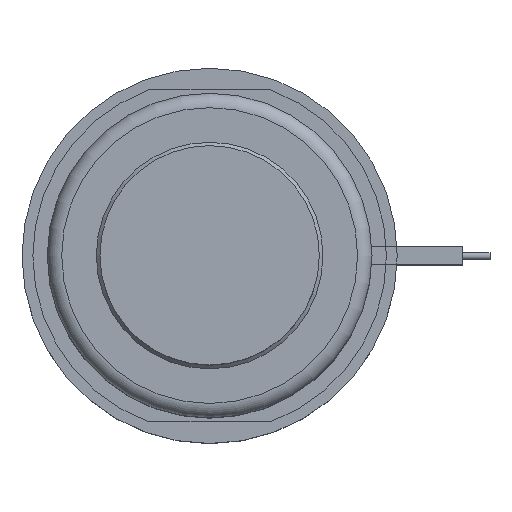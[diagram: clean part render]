
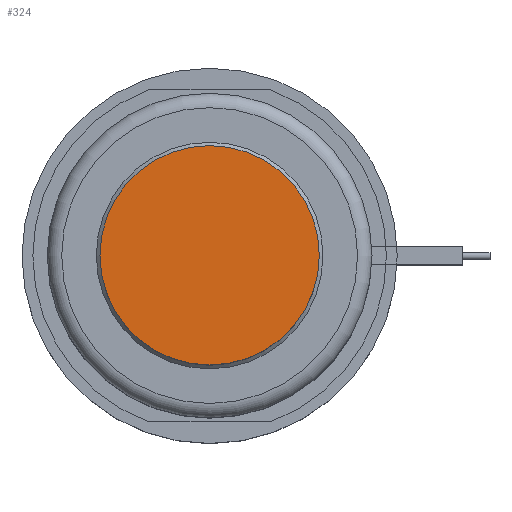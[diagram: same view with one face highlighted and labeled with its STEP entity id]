
A CAD part, top view. The second image highlights one B-rep face of the part: STEP entity #324.
In plain terms, the highlighted planar face has unit normal (0, 0, 1).
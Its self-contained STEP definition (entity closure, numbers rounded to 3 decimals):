
#234=PLANE('',#1297);
#324=ADVANCED_FACE('',(#493),#234,.F.);
#493=FACE_OUTER_BOUND('',#573,.T.);
#573=EDGE_LOOP('',(#731));
#731=ORIENTED_EDGE('',*,*,#1081,.F.);
#971=VERTEX_POINT('',#1873);
#1081=EDGE_CURVE('',#971,#971,#1202,.T.);
#1202=CIRCLE('',#1296,15.2);
#1296=AXIS2_PLACEMENT_3D('',#1872,#1507,#1508);
#1297=AXIS2_PLACEMENT_3D('',#1874,#1509,#1510);
#1507=DIRECTION('',(0.,0.,-1.));
#1508=DIRECTION('',(-1.,0.,0.));
#1509=DIRECTION('',(0.,0.,-1.));
#1510=DIRECTION('',(-1.,0.,0.));
#1872=CARTESIAN_POINT('',(0.,0.,18.));
#1873=CARTESIAN_POINT('',(-15.2,0.,18.));
#1874=CARTESIAN_POINT('',(0.,0.,18.));
